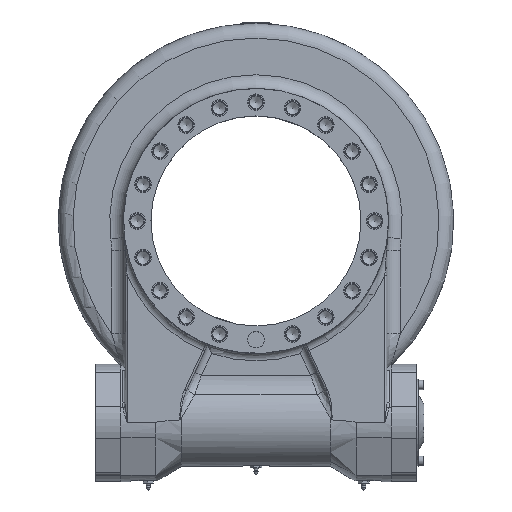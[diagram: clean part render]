
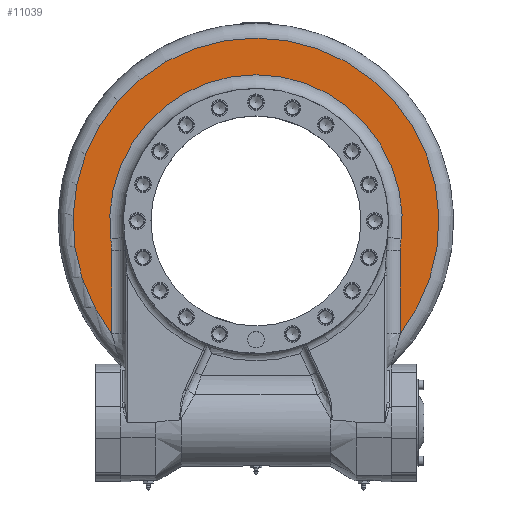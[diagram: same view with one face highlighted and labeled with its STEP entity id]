
A CAD part, top view. The second image highlights one B-rep face of the part: STEP entity #11039.
In plain terms, the highlighted planar face has unit normal (0, 0, 1).
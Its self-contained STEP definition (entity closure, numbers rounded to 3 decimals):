
#884 = VERTEX_POINT ( 'NONE', #5447 ) ;
#890 = VECTOR ( 'NONE', #9130, 1000. ) ;
#1534 = DIRECTION ( 'NONE',  ( 0., 0., 1. ) ) ;
#1586 = CIRCLE ( 'NONE', #9190, 199.5 ) ;
#1649 = ORIENTED_EDGE ( 'NONE', *, *, #12262, .T. ) ;
#2555 = CIRCLE ( 'NONE', #31460, 105. ) ;
#3249 = AXIS2_PLACEMENT_3D ( 'NONE', #21419, #35966, #3652 ) ;
#3432 = VERTEX_POINT ( 'NONE', #19222 ) ;
#3543 = CARTESIAN_POINT ( 'NONE',  ( 157.5, 0., 28.6 ) ) ;
#3652 = DIRECTION ( 'NONE',  ( 1., 0., 0. ) ) ;
#5223 = VECTOR ( 'NONE', #12827, 1000. ) ;
#5426 = DIRECTION ( 'NONE',  ( 1., 0., 0. ) ) ;
#5447 = CARTESIAN_POINT ( 'NONE',  ( 157.5, -122.45, 28.6 ) ) ;
#7116 = CARTESIAN_POINT ( 'NONE',  ( -157.5, -122.45, 28.6 ) ) ;
#7558 = VERTEX_POINT ( 'NONE', #7116 ) ;
#7620 = CIRCLE ( 'NONE', #15969, 159.5 ) ;
#8544 = CARTESIAN_POINT ( 'NONE',  ( -157.5, -32.465, 28.6 ) ) ;
#9130 = DIRECTION ( 'NONE',  ( 0., -1., 0. ) ) ;
#9190 = AXIS2_PLACEMENT_3D ( 'NONE', #30798, #27889, #10261 ) ;
#9195 = CIRCLE ( 'NONE', #17204, 105. ) ;
#10261 = DIRECTION ( 'NONE',  ( 1., 0., 0. ) ) ;
#10592 = EDGE_CURVE ( 'NONE', #14864, #884, #19465, .T. ) ;
#10884 = CARTESIAN_POINT ( 'NONE',  ( 0., 0., 28.6 ) ) ;
#11039 = ADVANCED_FACE ( 'NONE', ( #22652 ), #33157, .T. ) ;
#12083 = ORIENTED_EDGE ( 'NONE', *, *, #10592, .T. ) ;
#12092 = EDGE_CURVE ( 'NONE', #3432, #14864, #2555, .T. ) ;
#12262 = EDGE_CURVE ( 'NONE', #28413, #3432, #7620, .T. ) ;
#12827 = DIRECTION ( 'NONE',  ( 0., 1., 0. ) ) ;
#13328 = ORIENTED_EDGE ( 'NONE', *, *, #37591, .T. ) ;
#14361 = DIRECTION ( 'NONE',  ( 0., 0., 1. ) ) ;
#14864 = VERTEX_POINT ( 'NONE', #17666 ) ;
#15969 = AXIS2_PLACEMENT_3D ( 'NONE', #10884, #31718, #25774 ) ;
#16195 = CARTESIAN_POINT ( 'NONE',  ( 262.5, -32.465, 28.6 ) ) ;
#16356 = LINE ( 'NONE', #22023, #5223 ) ;
#17204 = AXIS2_PLACEMENT_3D ( 'NONE', #29171, #14361, #5426 ) ;
#17666 = CARTESIAN_POINT ( 'NONE',  ( 157.5, -32.465, 28.6 ) ) ;
#18911 = DIRECTION ( 'NONE',  ( 1., 0., 0. ) ) ;
#19222 = CARTESIAN_POINT ( 'NONE',  ( 158.294, -19.577, 28.6 ) ) ;
#19391 = EDGE_CURVE ( 'NONE', #884, #7558, #1586, .T. ) ;
#19465 = LINE ( 'NONE', #3543, #890 ) ;
#19843 = EDGE_CURVE ( 'NONE', #7558, #34162, #16356, .T. ) ;
#21419 = CARTESIAN_POINT ( 'NONE',  ( 0., 0., 28.6 ) ) ;
#22023 = CARTESIAN_POINT ( 'NONE',  ( -157.5, 0., 28.6 ) ) ;
#22643 = ORIENTED_EDGE ( 'NONE', *, *, #12092, .T. ) ;
#22652 = FACE_OUTER_BOUND ( 'NONE', #28393, .T. ) ;
#25774 = DIRECTION ( 'NONE',  ( 1., 0., 0. ) ) ;
#27090 = CARTESIAN_POINT ( 'NONE',  ( -158.294, -19.577, 28.6 ) ) ;
#27889 = DIRECTION ( 'NONE',  ( 0., 0., 1. ) ) ;
#28393 = EDGE_LOOP ( 'NONE', ( #22643, #12083, #34195, #37975, #13328, #1649 ) ) ;
#28413 = VERTEX_POINT ( 'NONE', #27090 ) ;
#29171 = CARTESIAN_POINT ( 'NONE',  ( -262.5, -32.465, 28.6 ) ) ;
#30798 = CARTESIAN_POINT ( 'NONE',  ( 0., 0., 28.6 ) ) ;
#31460 = AXIS2_PLACEMENT_3D ( 'NONE', #16195, #1534, #18911 ) ;
#31718 = DIRECTION ( 'NONE',  ( 0., 0., -1. ) ) ;
#33157 = PLANE ( 'NONE',  #3249 ) ;
#34162 = VERTEX_POINT ( 'NONE', #8544 ) ;
#34195 = ORIENTED_EDGE ( 'NONE', *, *, #19391, .T. ) ;
#35966 = DIRECTION ( 'NONE',  ( 0., 0., 1. ) ) ;
#37591 = EDGE_CURVE ( 'NONE', #34162, #28413, #9195, .T. ) ;
#37975 = ORIENTED_EDGE ( 'NONE', *, *, #19843, .T. ) ;
